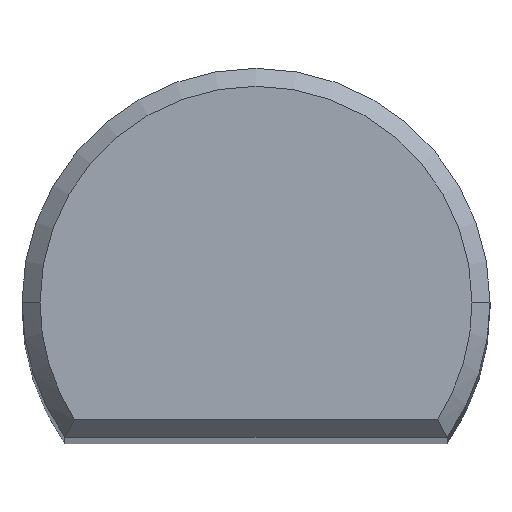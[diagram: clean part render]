
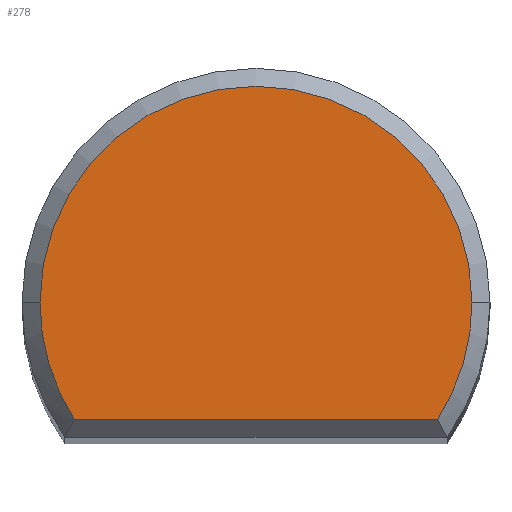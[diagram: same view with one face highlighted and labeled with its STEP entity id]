
A CAD part, top view. The second image highlights one B-rep face of the part: STEP entity #278.
In plain terms, the highlighted planar face has unit normal (0, 0, 1).
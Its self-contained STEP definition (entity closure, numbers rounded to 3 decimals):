
#5 = VERTEX_POINT ( 'NONE', #191 ) ;
#6 = CARTESIAN_POINT ( 'NONE',  ( 0., 0., 122. ) ) ;
#12 = DIRECTION ( 'NONE',  ( 1., 0., 0. ) ) ;
#13 = CIRCLE ( 'NONE', #276, 7.2 ) ;
#30 = PLANE ( 'NONE',  #403 ) ;
#83 = DIRECTION ( 'NONE',  ( 1., 0., 0. ) ) ;
#97 = DIRECTION ( 'NONE',  ( 1., 0., 0. ) ) ;
#99 = CARTESIAN_POINT ( 'NONE',  ( 6.371, -3.9, 122. ) ) ;
#100 = CARTESIAN_POINT ( 'NONE',  ( -7.2, 0., 122. ) ) ;
#127 = DIRECTION ( 'NONE',  ( 0., 0., 1. ) ) ;
#134 = AXIS2_PLACEMENT_3D ( 'NONE', #6, #327, #12 ) ;
#136 = DIRECTION ( 'NONE',  ( 0., 0., 1. ) ) ;
#144 = EDGE_CURVE ( 'NONE', #312, #5, #310, .T. ) ;
#147 = VERTEX_POINT ( 'NONE', #100 ) ;
#155 = CARTESIAN_POINT ( 'NONE',  ( 0., 0., 122. ) ) ;
#167 = LINE ( 'NONE', #99, #193 ) ;
#171 = CIRCLE ( 'NONE', #214, 7.2 ) ;
#188 = ORIENTED_EDGE ( 'NONE', *, *, #346, .T. ) ;
#191 = CARTESIAN_POINT ( 'NONE',  ( 7.2, 0., 122. ) ) ;
#193 = VECTOR ( 'NONE', #199, 1000. ) ;
#199 = DIRECTION ( 'NONE',  ( 1., 0., 0. ) ) ;
#200 = VERTEX_POINT ( 'NONE', #249 ) ;
#214 = AXIS2_PLACEMENT_3D ( 'NONE', #355, #136, #97 ) ;
#242 = DIRECTION ( 'NONE',  ( 1., 0., 0. ) ) ;
#249 = CARTESIAN_POINT ( 'NONE',  ( -6.052, -3.9, 122. ) ) ;
#261 = CARTESIAN_POINT ( 'NONE',  ( 6.052, -3.9, 122. ) ) ;
#276 = AXIS2_PLACEMENT_3D ( 'NONE', #382, #300, #242 ) ;
#278 = ADVANCED_FACE ( 'NONE', ( #343 ), #30, .T. ) ;
#300 = DIRECTION ( 'NONE',  ( 0., 0., 1. ) ) ;
#310 = CIRCLE ( 'NONE', #134, 7.2 ) ;
#312 = VERTEX_POINT ( 'NONE', #261 ) ;
#326 = EDGE_CURVE ( 'NONE', #147, #200, #171, .T. ) ;
#327 = DIRECTION ( 'NONE',  ( 0., 0., 1. ) ) ;
#333 = EDGE_LOOP ( 'NONE', ( #407, #370, #383, #188 ) ) ;
#343 = FACE_OUTER_BOUND ( 'NONE', #333, .T. ) ;
#346 = EDGE_CURVE ( 'NONE', #200, #312, #167, .T. ) ;
#355 = CARTESIAN_POINT ( 'NONE',  ( 0., 0., 122. ) ) ;
#370 = ORIENTED_EDGE ( 'NONE', *, *, #401, .T. ) ;
#382 = CARTESIAN_POINT ( 'NONE',  ( 0., 0., 122. ) ) ;
#383 = ORIENTED_EDGE ( 'NONE', *, *, #326, .T. ) ;
#401 = EDGE_CURVE ( 'NONE', #5, #147, #13, .T. ) ;
#403 = AXIS2_PLACEMENT_3D ( 'NONE', #155, #127, #83 ) ;
#407 = ORIENTED_EDGE ( 'NONE', *, *, #144, .T. ) ;
